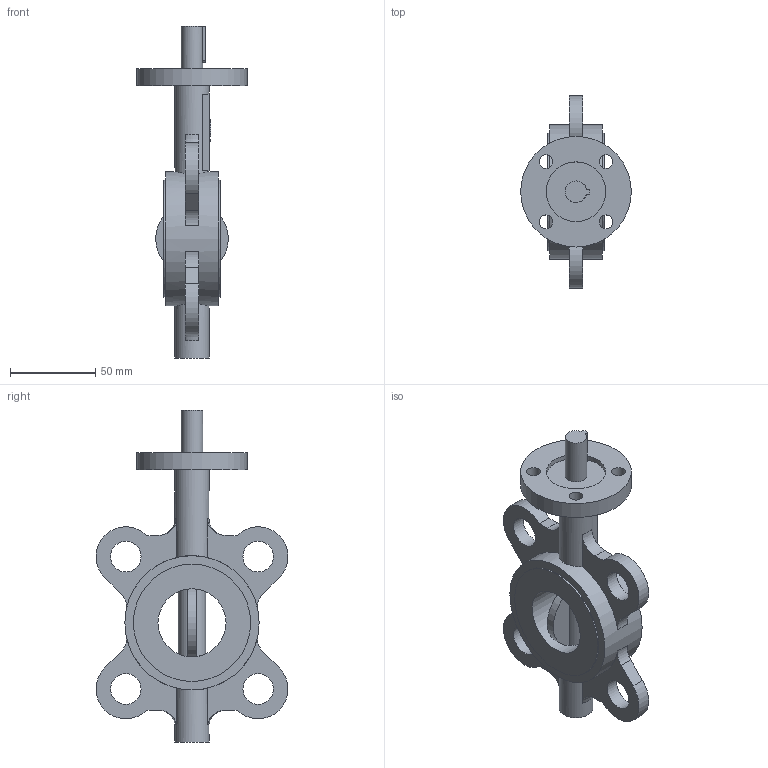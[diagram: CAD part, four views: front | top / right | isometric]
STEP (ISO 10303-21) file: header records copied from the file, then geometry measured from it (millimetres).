
FILE_DESCRIPTION(('STEP AP203'), '1');
FILE_NAME('青蜮铕 017W.YS_DN40', '', ('UNSPECIFIED'), ('UNSPECIFIED'), 'ASCON STEP Converter 1.6', 'ASCON Math Kernel', '');
FILE_SCHEMA(('CONFIG_CONTROL_DESIGN'));
Length unit declared in the file: millimetre
Bounding box: 65 x 112.65 x 195 mm (x, y, z)
Volume: 219168.3 mm3; surface area: 49237 mm2
Topology: 1 solids, 1 shells, 94 faces, 241 edges, 160 vertices
Faces by surface type: plane 48, cylinder 42, torus 4
Full cylindrical faces by diameter (mm): 8 x4, 12.6 x1, 18 x4, 20 x2, 35 x1, 40 x1, 65 x1, 68.9 x2, 78.9 x1
Entity records: 5059 total; most frequent: CARTESIAN_POINT 1980, DIRECTION 470, ORIENTED_EDGE 448, EDGE_CURVE 224, AXIS2_PLACEMENT_3D 185, VERTEX_POINT 160, EDGE_LOOP 142, FACE_BOUND 111
